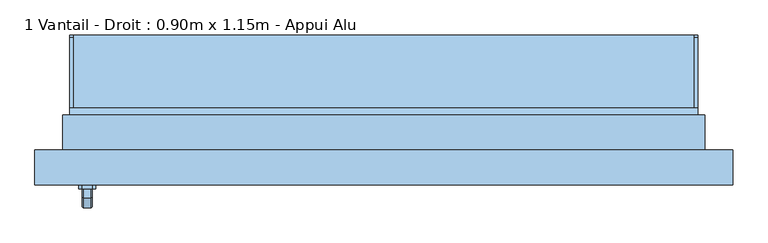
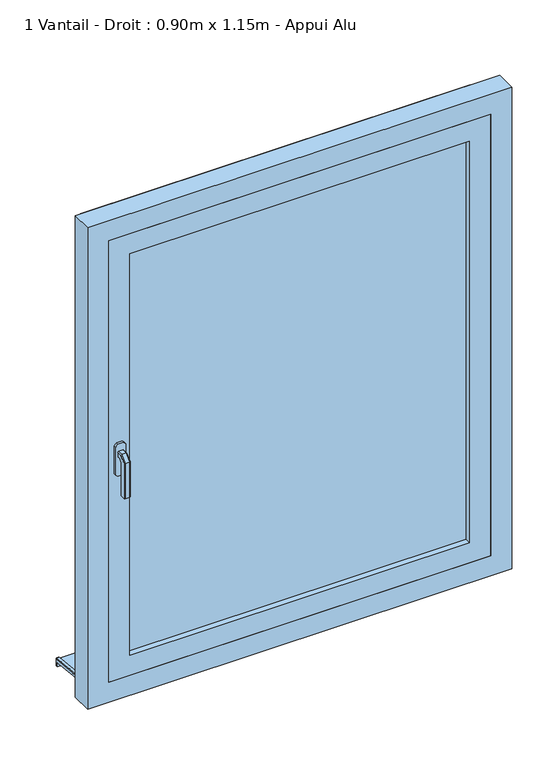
"""IFC4 building model written with IfcOpenShell, lengths in millimetres: window geometry, 1 Vantail - Droit : 0.90m x 1.15m - Appui Alu."""

from ifc_helpers import new_model, si_unit, point, frame, frame_2d, origin, place, context, project, spatial, polyline, circle_curve, trimmed, segment, composite_curve, outline, extrude, faceted_brep, source, transform, mapped, element, save


def window_1_vantail_droit_0_90m_x_1_15m_appui_alu_45212151(model_context):
    return source(origin(), model_context, "Body", "SolidModel", [
        faceted_brep([(-419.3539903, -106.0, 1422.0339292), (-417.9660708, -106.0, 1420.6460097), (-417.9660708, -106.0, 1409.3323012), (-419.3323012, -106.0, 1407.9660708), (-430.6676988, -106.0, 1407.9660708), (-432.0339292, -106.0, 1409.3323012), (-432.0339292, -106.0, 1420.6460097), (-430.6460097, -106.0, 1422.0339292), (-419.3539903, -118.9135489, 1422.0339292), (-417.9660708, -118.3386538, 1420.6460097), (-417.9660708, -131.6460097, 1407.3386538), (-417.9660708, -131.6460097, 1320.0), (-417.9660708, -120.3323012, 1320.0), (-417.9660708, -120.3323012, 1402.6523623), (-417.9660708, -113.6523623, 1409.3323012), (-419.3323012, -113.0864511, 1407.9660708), (-430.6676988, -113.0864511, 1407.9660708), (-432.0339292, -113.6523623, 1409.3323012), (-432.0339292, -120.3323012, 1402.6523623), (-432.0339292, -120.3323012, 1320.0), (-432.0339292, -131.6460097, 1320.0), (-432.0339292, -131.6460097, 1407.3386538), (-432.0339292, -118.3386538, 1420.6460097), (-430.6460097, -118.9135489, 1422.0339292), (-419.3539903, -133.0339292, 1407.9135489), (-419.3323012, -118.9660708, 1402.0864511), (-430.6676988, -118.9660708, 1402.0864511), (-430.6460097, -133.0339292, 1407.9135489), (-419.3539903, -133.0339292, 1320.0), (-430.6460097, -133.0339292, 1320.0), (-430.6676988, -118.9660708, 1320.0), (-419.3323012, -118.9660708, 1320.0)], [[[0, 1, 2, 3, 4, 5, 6, 7]], [[1, 0, 8, 9]], [[2, 1, 9, 10, 11, 12, 13, 14]], [[3, 2, 14, 15]], [[4, 3, 15, 16]], [[5, 4, 16, 17]], [[6, 5, 17, 18, 19, 20, 21, 22]], [[7, 6, 22, 23]], [[0, 7, 23, 8]], [[9, 8, 24, 10]], [[15, 14, 13, 25]], [[16, 15, 25, 26]], [[17, 16, 26, 18]], [[23, 22, 21, 27]], [[8, 23, 27, 24]], [[28, 29, 20, 19, 30, 31, 12, 11]], [[10, 24, 28, 11]], [[25, 13, 12, 31]], [[26, 25, 31, 30]], [[18, 26, 30, 19]], [[27, 21, 20, 29]], [[24, 27, 29, 28]]]),
        extrude(outline(polyline([(1440.0, -418.0), (1440.0, -432.0), (1435.0, -437.0), (1365.0, -437.0), (1360.0, -432.0), (1360.0, -418.0), (1365.0, -413.0), (1435.0, -413.0), (1440.0, -418.0)])), frame((0.0, -106.0, 0.0), z_axis=(0.0, 1.0, 0.0), x_axis=(0.0, 0.0, 1.0)), (0.0, 0.0, 1.0), 6.0),
        extrude(outline(polyline([(115.0, 776.06614), (115.0, 760.5104235), (110.0, 761.0359447), (110.0, 771.3364494), (-20.0, 785.0), (-20.0, 800.0), (-15.0, 800.0), (-15.0, 789.7296906), (115.0, 776.06614)])), frame((-450.0, 0.0, 0.0), z_axis=(1.0, 0.0, 0.0), x_axis=(0.0, 1.0, 0.0)), (0.0, 0.0, 1.0), 900.0),
        extrude(outline(composite_curve([segment(polyline([(115.0, 776.06614), (-15.0, 789.7296906), (-15.0, 794.757232), (111.4181139, 781.4701528)]), True, "CONTINUOUS"), segment(trimmed(circle_curve(frame_2d((111.0, 777.4920652)), 4.0), [point((111.4181139, 781.4701528))], [point((115.0, 777.4920652))], False, "CARTESIAN"), True, "CONTINUOUS"), segment(polyline([(115.0, 777.4920652), (115.0, 776.06614)]), True, "CONTINUOUS")], self_intersect=False)), frame((-450.0, 0.0, 0.0), z_axis=(1.0, 0.0, 0.0), x_axis=(0.0, 1.0, 0.0)), (0.0, 0.0, 1.0), 5.0),
        extrude(outline(composite_curve([segment(polyline([(115.0, 776.06614), (-15.0, 789.7296906), (-15.0, 794.757232), (111.4181139, 781.4701528)]), True, "CONTINUOUS"), segment(trimmed(circle_curve(frame_2d((111.0, 777.4920652)), 4.0), [point((111.4181139, 781.4701528))], [point((115.0, 777.4920652))], False, "CARTESIAN"), True, "CONTINUOUS"), segment(polyline([(115.0, 777.4920652), (115.0, 776.06614)]), True, "CONTINUOUS")], self_intersect=False)), frame((445.0, 0.0, 0.0), z_axis=(1.0, 0.0, 0.0), x_axis=(0.0, 1.0, 0.0)), (0.0, 0.0, 1.0), 5.0),
        extrude(outline(polyline([(-400.0, -74.0), (400.0, -74.0), (400.0, -86.0), (-400.0, -86.0), (-400.0, -74.0)])), frame((0.0, 0.0, 900.0), z_axis=(0.0, 0.0, 1.0), x_axis=(1.0, 0.0, 0.0)), (0.0, 0.0, 1.0), 1000.0),
        extrude(outline(polyline([(850.0, 450.0), (1950.0, 450.0), (1950.0, -450.0), (850.0, -450.0), (850.0, 450.0)]), holes=[polyline([(900.0, -400.0), (1900.0, -400.0), (1900.0, 400.0), (900.0, 400.0), (900.0, -400.0)])]), frame((0.0, -100.0, 0.0), z_axis=(0.0, 1.0, 0.0), x_axis=(0.0, 0.0, 1.0)), (0.0, 0.0, 1.0), 40.0),
        faceted_brep([(-500.0, -100.0, 800.0), (-500.0, -50.0, 800.0), (-450.0, -50.0, 800.0), (-450.0, 0.0, 800.0), (450.0, 0.0, 800.0), (450.0, -50.0, 800.0), (500.0, -50.0, 800.0), (500.0, -100.0, 800.0), (-500.0, -100.0, 2000.0), (-500.0, -50.0, 2000.0), (500.0, -50.0, 2000.0), (450.0, -50.0, 839.3761425), (-450.0, -50.0, 839.3761425), (-435.0, -50.0, 1935.0), (-435.0, -50.0, 865.0), (435.0, -50.0, 865.0), (435.0, -50.0, 1935.0), (-450.0, 10.0, 823.2991909), (-450.0, 10.0, 795.0), (-450.0, 0.0, 795.0), (450.0, 0.0, 795.0), (450.0, 10.0, 795.0), (450.0, 10.0, 823.2991909), (500.0, -100.0, 2000.0), (450.0, -100.0, 1950.0), (450.0, -100.0, 850.0), (-450.0, -100.0, 850.0), (-450.0, -100.0, 1950.0), (-435.0, -60.0, 1935.0), (-435.0, -60.0, 865.0), (435.0, -60.0, 865.0), (435.0, -60.0, 1935.0), (450.0, -60.0, 1950.0), (-450.0, -60.0, 1950.0), (-450.0, -60.0, 850.0), (450.0, -60.0, 850.0)], [[[0, 1, 2, 3, 4, 5, 6, 7]], [[1, 0, 8, 9]], [[1, 9, 10, 6, 5, 11, 12, 2], [13, 14, 15, 16]], [[12, 17, 18, 19, 3, 2]], [[3, 19, 20, 4]], [[4, 20, 21, 22, 11, 5]], [[6, 10, 23, 7]], [[0, 7, 23, 8], [24, 25, 26, 27]], [[13, 28, 29, 14]], [[29, 30, 15, 14]], [[31, 16, 15, 30]], [[17, 12, 11, 22]], [[32, 33, 34, 35], [28, 31, 30, 29]], [[34, 33, 27, 26]], [[26, 25, 35, 34]], [[24, 32, 35, 25]], [[18, 17, 22, 21]], [[19, 18, 21, 20]], [[13, 16, 31, 28]], [[33, 32, 24, 27]], [[10, 9, 8, 23]]]),
        extrude(outline(polyline([(800.0, -460.0), (800.0, -450.0), (1950.0, -450.0), (1950.0, 450.0), (800.0, 450.0), (800.0, 460.0), (1960.0, 460.0), (1960.0, -460.0), (800.0, -460.0)])), frame((0.0, -50.0, 0.0), z_axis=(0.0, 1.0, 0.0), x_axis=(0.0, 0.0, 1.0)), (0.0, 0.0, 1.0), 50.0),
    ])


if __name__ == "__main__":
    model = new_model("IFC4")
    model_context = context("Model", 3, world=origin())
    ifc_project = project(units=[si_unit("LENGTHUNIT", "METRE", prefix="MILLI")], contexts=[model_context])
    site = spatial("IfcSite", under=ifc_project)
    building = spatial("IfcBuilding", under=site)
    placement = place(None, origin())
    window_1_vantail_droit_0_90m_x_1_15m_appui_alu_shape = window_1_vantail_droit_0_90m_x_1_15m_appui_alu_45212151(model_context)
    element("IfcWindow", 1, ObjectType="1 Vantail - Droit : 0.90m x 1.15m - Appui Alu", at=placement, inside=building, context=model_context, shape_type="MappedRepresentation", body=[
        mapped(window_1_vantail_droit_0_90m_x_1_15m_appui_alu_shape, transform((0.0, 0.0, 0.0), x_axis=(1.0, 0.0, 0.0), y_axis=(0.0, 1.0, 0.0), z_axis=(0.0, 0.0, 1.0))),
    ])
    save(model, "model.ifc")
